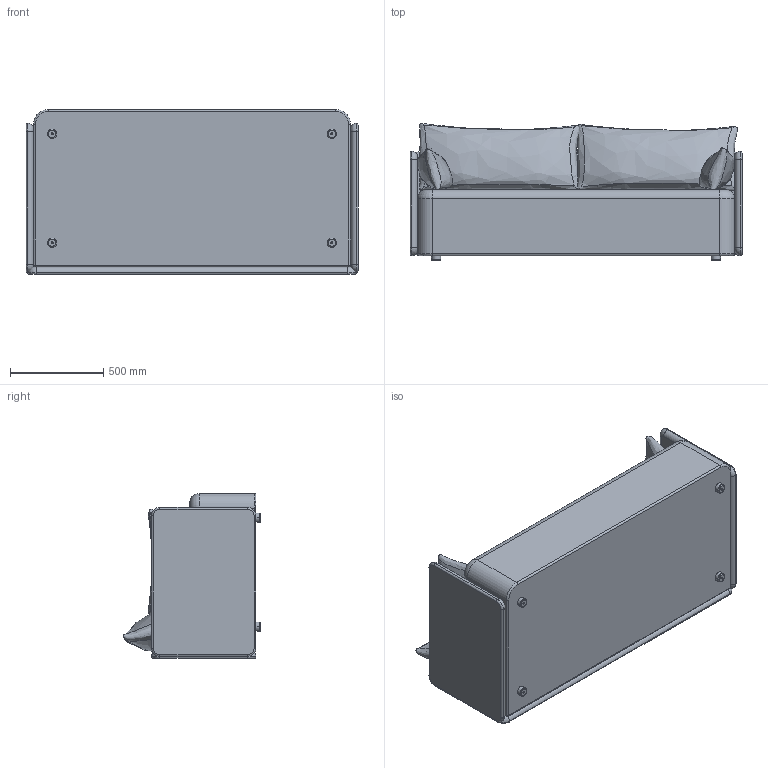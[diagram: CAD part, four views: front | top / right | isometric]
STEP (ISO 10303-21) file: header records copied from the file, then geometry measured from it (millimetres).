
FILE_DESCRIPTION (( 'STEP AP214' ), '1' );
FILE_NAME ('Offset Sofa, 2-Seater.STEP', '2024-11-15T10:02:49', ( '' ), ( '' ), 'SwSTEP 2.0', 'SolidWorks 2022', '' );
FILE_SCHEMA (( 'AUTOMOTIVE_DESIGN' ));
Length unit declared in the file: millimetre
Products named in the file (7): BN 7 - DIN 912 - ISO 4762 - 1007602; M170504 Offset-Glide; Insert - M6x14; M170504 Offset 2-Seater - Parts; Offset Sofa, 2-Seater; Side Cushion - Left; M170504 Back Cushion - Left 2S
Assembly tree (17 placements, depth 2):
  Offset Sofa, 2-Seater
    M170504 Offset 2-Seater - Parts
    Insert - M6x14  x4
    M170504 Offset-Glide  x4
    BN 7 - DIN 912 - ISO 4762 - 1007602  x4
    Side Cushion - Left  x2
    M170504 Back Cushion - Left 2S  x2
Bounding box: 1780 x 735.47 x 884 mm (x, y, z)
Volume: 678393084.8 mm3; surface area: 10682626.8 mm2
Topology: 20 solids, 20 shells, 580 faces, 1508 edges, 972 vertices
Faces by surface type: cylinder 400, plane 76, bspline 50, torus 44, cone 8, sphere 2
Entity records: 17035 total; most frequent: CARTESIAN_POINT 11926, ORIENTED_EDGE 1078, DIRECTION 946, EDGE_CURVE 539, AXIS2_PLACEMENT_3D 380, VERTEX_POINT 341, EDGE_LOOP 234, FACE_OUTER_BOUND 223
